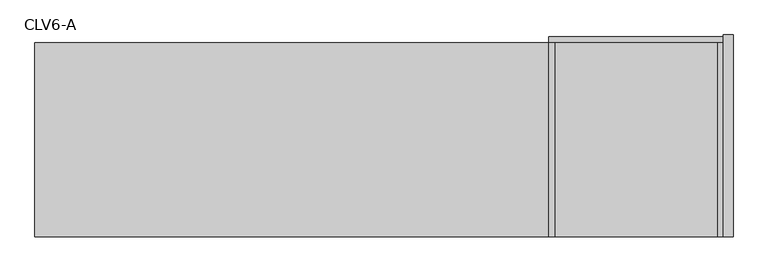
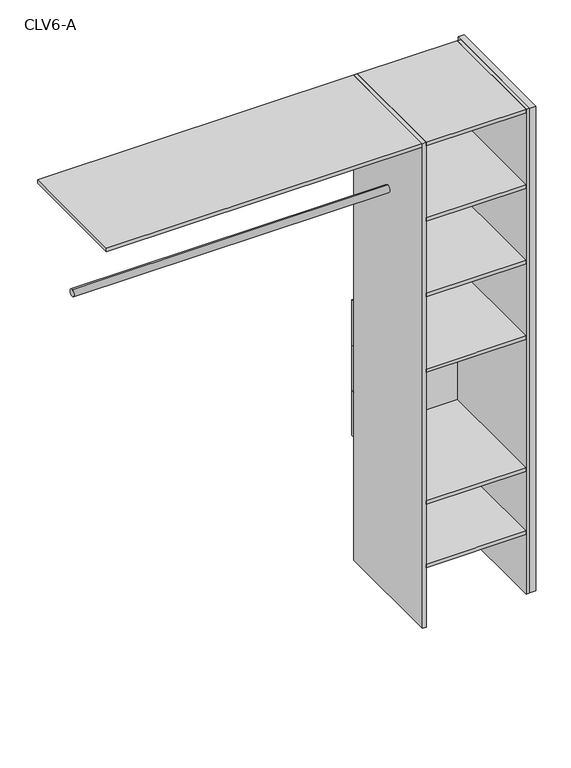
"""IFC4 building model written with IfcOpenShell, lengths in millimetres: furniture geometry, Closet 1estantes-1tubos_lateral estante : CLV6-A."""

from ifc_helpers import new_model, si_unit, point, frame, frame_2d, origin, origin_with_axes, place, context, project, spatial, polyline, circle_curve, trimmed, segment, composite_curve, outline, extrude, source, transform, mapped, element, save


def clv6_a_3b603aec(model_context):
    return source(origin(), model_context, "Body", "SweptSolid", [
        extrude(outline(polyline([(250.0, -80.0), (250.0, -600.0), (225.0, -600.0), (225.0, -80.0), (250.0, -80.0)])), origin_with_axes(), (0.0, 0.0, 1.0), 2150.0),
        extrude(outline(polyline([(225.0, -100.0), (225.0, -600.0), (210.0, -600.0), (210.0, -100.0), (225.0, -100.0)])), origin_with_axes(), (0.0, 0.0, 1.0), 2150.0),
        extrude(outline(polyline([(-210.0, -100.0), (-210.0, -600.0), (-225.0, -600.0), (-225.0, -100.0), (-210.0, -100.0)])), origin_with_axes(), (0.0, 0.0, 1.0), 2150.0),
        extrude(outline(polyline([(225.0, -100.0), (-225.0, -100.0), (-225.0, -85.0), (225.0, -85.0), (225.0, -100.0)])), frame((0.0, 0.0, 945.0), z_axis=(0.0, 0.0, 1.0), x_axis=(1.0, 0.0, 0.0)), (0.0, 0.0, 1.0), 200.0),
        extrude(outline(polyline([(225.0, -100.0), (-225.0, -100.0), (-225.0, -85.0), (225.0, -85.0), (225.0, -100.0)])), frame((0.0, 0.0, 745.0), z_axis=(0.0, 0.0, 1.0), x_axis=(1.0, 0.0, 0.0)), (0.0, 0.0, 1.0), 200.0),
        extrude(outline(polyline([(225.0, -100.0), (-225.0, -100.0), (-225.0, -85.0), (225.0, -85.0), (225.0, -100.0)])), frame((0.0, 0.0, 545.0), z_axis=(0.0, 0.0, 1.0), x_axis=(1.0, 0.0, 0.0)), (0.0, 0.0, 1.0), 200.0),
        extrude(outline(polyline([(210.0, -100.0), (210.0, -600.0), (-210.0, -600.0), (-210.0, -100.0), (210.0, -100.0)])), frame((0.0, 0.0, 1130.0), z_axis=(0.0, 0.0, 1.0), x_axis=(1.0, 0.0, 0.0)), (0.0, 0.0, 1.0), 15.0),
        extrude(outline(composite_curve([segment(trimmed(circle_curve(frame_2d((-350.0, 1800.0)), 15.0), [point((-350.0, 1815.0))], [point((-350.0, 1785.0))], False, "CARTESIAN"), True, "CONTINUOUS"), segment(trimmed(circle_curve(frame_2d((-350.0, 1800.0)), 15.0), [point((-350.0, 1785.0))], [point((-350.0, 1815.0))], False, "CARTESIAN"), True, "CONTINUOUS")], self_intersect=False)), frame((-1550.0, 0.0, 0.0), z_axis=(1.0, 0.0, 0.0), x_axis=(0.0, 1.0, 0.0)), (0.0, 0.0, 1.0), 1325.0),
        extrude(outline(composite_curve([segment(trimmed(circle_curve(frame_2d((-350.0, 1800.0)), 15.0), [point((-350.0, 1815.0))], [point((-350.0, 1785.0))], False, "CARTESIAN"), True, "CONTINUOUS"), segment(trimmed(circle_curve(frame_2d((-350.0, 1800.0)), 15.0), [point((-350.0, 1785.0))], [point((-350.0, 1815.0))], False, "CARTESIAN"), True, "CONTINUOUS")], self_intersect=False)), frame((-1550.0, 0.0, 0.0), z_axis=(1.0, 0.0, 0.0), x_axis=(0.0, 1.0, 0.0)), (0.0, 0.0, 1.0), 1325.0),
        extrude(outline(polyline([(210.0, -100.0), (210.0, -600.0), (-210.0, -600.0), (-210.0, -100.0), (210.0, -100.0)])), frame((0.0, 0.0, 265.0), z_axis=(0.0, 0.0, 1.0), x_axis=(1.0, 0.0, 0.0)), (0.0, 0.0, 1.0), 15.0),
        extrude(outline(polyline([(210.0, -100.0), (210.0, -600.0), (-210.0, -600.0), (-210.0, -100.0), (210.0, -100.0)])), frame((0.0, 0.0, 545.0), z_axis=(0.0, 0.0, 1.0), x_axis=(1.0, 0.0, 0.0)), (0.0, 0.0, 1.0), 15.0),
        extrude(outline(polyline([(210.0, -100.0), (210.0, -600.0), (-210.0, -600.0), (-210.0, -100.0), (210.0, -100.0)])), frame((0.0, 0.0, 1465.0), z_axis=(0.0, 0.0, 1.0), x_axis=(1.0, 0.0, 0.0)), (0.0, 0.0, 1.0), 15.0),
        extrude(outline(polyline([(210.0, -100.0), (210.0, -600.0), (-210.0, -600.0), (-210.0, -100.0), (210.0, -100.0)])), frame((0.0, 0.0, 1800.0), z_axis=(0.0, 0.0, 1.0), x_axis=(1.0, 0.0, 0.0)), (0.0, 0.0, 1.0), 15.0),
        extrude(outline(polyline([(-210.0, -100.0), (-210.0, -600.0), (-1550.0, -600.0), (-1550.0, -100.0), (-210.0, -100.0)])), frame((0.0, 0.0, 2135.0), z_axis=(0.0, 0.0, 1.0), x_axis=(1.0, 0.0, 0.0)), (0.0, 0.0, 1.0), 15.0),
        extrude(outline(polyline([(210.0, -100.0), (210.0, -600.0), (-210.0, -600.0), (-210.0, -100.0), (210.0, -100.0)])), frame((0.0, 0.0, 2135.0), z_axis=(0.0, 0.0, 1.0), x_axis=(1.0, 0.0, 0.0)), (0.0, 0.0, 1.0), 15.0),
    ])


if __name__ == "__main__":
    model = new_model("IFC4")
    model_context = context("Model", 3, world=origin())
    ifc_project = project(units=[si_unit("LENGTHUNIT", "METRE", prefix="MILLI")], contexts=[model_context])
    site = spatial("IfcSite", under=ifc_project)
    building = spatial("IfcBuilding", under=site)
    placement = place(None, origin())
    clv6_a_shape = clv6_a_3b603aec(model_context)
    element("IfcFurniture", 1, ObjectType="Closet 1estantes-1tubos_lateral estante : CLV6-A", at=placement, inside=building, context=model_context, shape_type="MappedRepresentation", body=[
        mapped(clv6_a_shape, transform((0.0, 0.0, 0.0), x_axis=(1.0, 0.0, 0.0), y_axis=(0.0, 1.0, 0.0), z_axis=(0.0, 0.0, 1.0))),
    ])
    save(model, "model.ifc")
